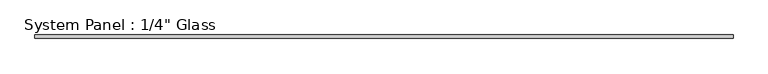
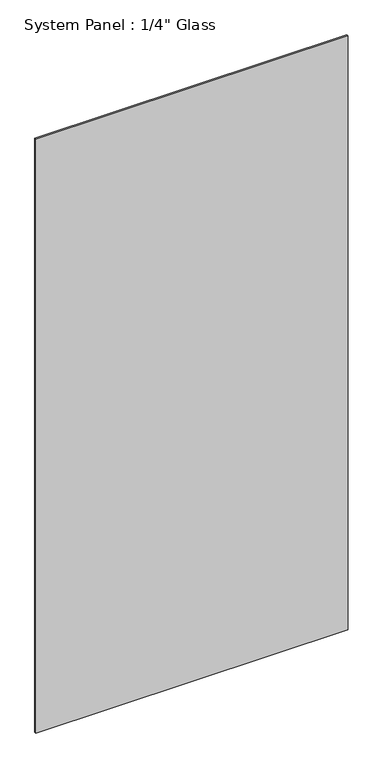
"""IFC4 building model written with IfcOpenShell, lengths in millimetres: plate geometry."""

from ifc_helpers import new_model, si_unit, origin, origin_with_axes, place, context, project, spatial, polyline, outline, extrude, source, transform, mapped, element, save


def plate_e2551f41(model_context):
    return source(origin(), model_context, "Body", "SweptSolid", [
        extrude(outline(polyline([(619.6188853, -3.175), (-619.6188853, -3.175), (-619.6188853, 3.175), (619.6188853, 3.175), (619.6188853, -3.175)])), origin_with_axes(), (0.0, 0.0, 1.0), 2489.2),
    ])


if __name__ == "__main__":
    model = new_model("IFC4")
    model_context = context("Model", 3, world=origin())
    ifc_project = project(units=[si_unit("LENGTHUNIT", "METRE", prefix="MILLI")], contexts=[model_context])
    site = spatial("IfcSite", under=ifc_project)
    building = spatial("IfcBuilding", under=site)
    placement = place(None, origin())
    plate_shape = plate_e2551f41(model_context)
    element("IfcPlate", 1, ObjectType="System Panel : 1/4\" Glass", at=placement, inside=building, context=model_context, shape_type="MappedRepresentation", body=[
        mapped(plate_shape, transform((0.0, 0.0, 0.0), x_axis=(1.0, 0.0, 0.0), y_axis=(0.0, 1.0, 0.0), z_axis=(0.0, 0.0, 1.0))),
    ])
    save(model, "model.ifc")
